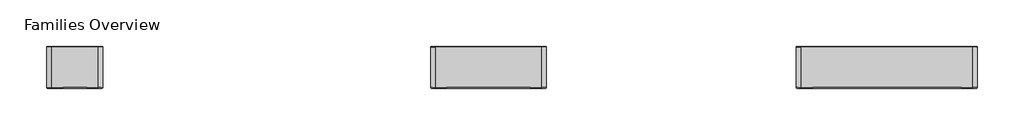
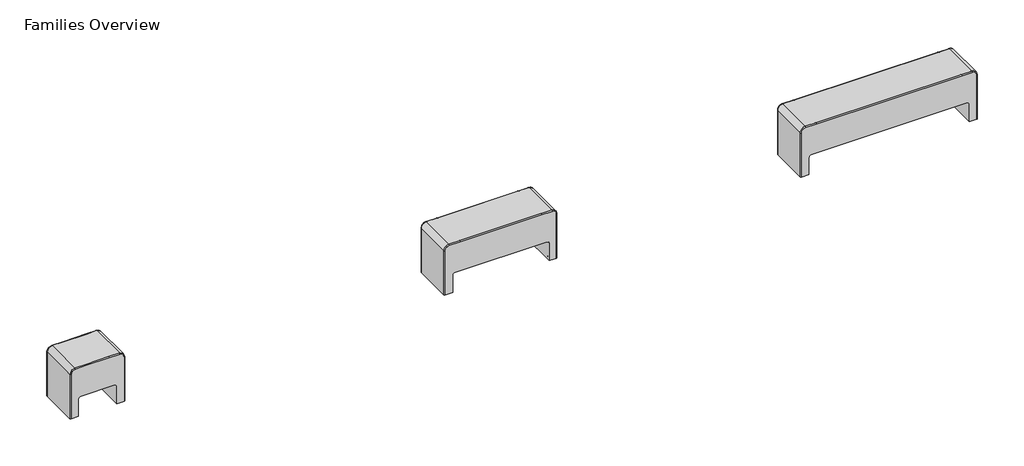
# One storey, incomplete: 3 furniture elements.
"""IFC4 building model written with IfcOpenShell, lengths in millimetres."""

from ifc_helpers import new_model, si_unit, origin, place, context, project, spatial, transform, mapped, element, save
from components import large_22a922e8, medium_84b7d5f4, small_4b0da466

model = new_model("IFC4")

# Units and contexts
model_context = context("Model", 3, world=origin())
ifc_project = project(units=[si_unit("LENGTHUNIT", "METRE", prefix="MILLI")], contexts=[model_context])

# Site, building, storey
site = spatial("IfcSite", under=ifc_project)
building = spatial("IfcBuilding", under=site)
storey = spatial("IfcBuildingStorey", under=building, Name="Families Overview", Elevation=0.0)

# Furniture
placement = place(None, origin())
large_shape = large_22a922e8(model_context)
element("IfcFurniture", 1, ObjectType="Steelcase Coalesse - Davos - Seating - Bench : Large", at=placement, inside=storey, context=model_context, shape_type="MappedRepresentation", body=[
    mapped(large_shape, transform((142289.4488557, -44869.3654986, 0.0), x_axis=(1.0, 0.0, 0.0), y_axis=(0.0, 1.0, 0.0), z_axis=(0.0, 0.0, 1.0))),
])
medium_shape = medium_84b7d5f4(model_context)
element("IfcFurniture", 2, ObjectType="Steelcase Coalesse - Davos - Seating - Bench : Medium", at=placement, inside=storey, context=model_context, shape_type="MappedRepresentation", body=[
    mapped(medium_shape, transform((139241.4488557, -44869.3654986, 0.0), x_axis=(1.0, 0.0, 0.0), y_axis=(0.0, 1.0, 0.0), z_axis=(0.0, 0.0, 1.0))),
])
small_shape = small_4b0da466(model_context)
element("IfcFurniture", 3, ObjectType="Steelcase Coalesse - Davos - Seating - Bench : Small", at=placement, inside=storey, context=model_context, shape_type="MappedRepresentation", body=[
    mapped(small_shape, transform((136041.0488557, -44869.3654986, 0.0), x_axis=(1.0, 0.0, 0.0), y_axis=(0.0, 1.0, 0.0), z_axis=(0.0, 0.0, 1.0))),
])

save(model, "model.ifc")
